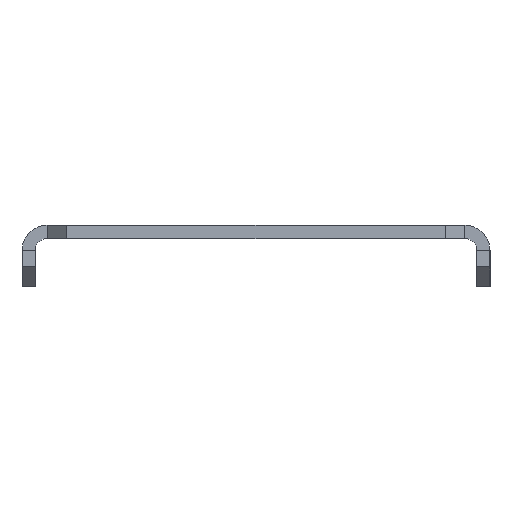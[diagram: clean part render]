
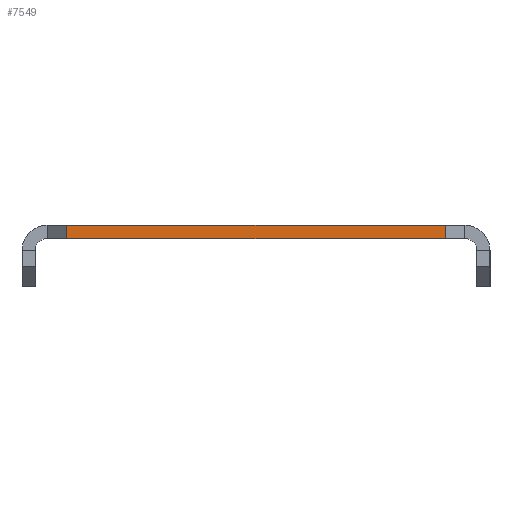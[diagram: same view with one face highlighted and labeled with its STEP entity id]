
A CAD part, left-side view. The second image highlights one B-rep face of the part: STEP entity #7549.
In plain terms, the highlighted planar face has unit normal (-1, 0, 0).
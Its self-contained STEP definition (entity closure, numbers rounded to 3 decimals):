
#298 = ORIENTED_EDGE ( 'NONE', *, *, #8040, .T. ) ;
#513 = CARTESIAN_POINT ( 'NONE',  ( -237.5, 28.655, 0. ) ) ;
#858 = CARTESIAN_POINT ( 'NONE',  ( -237.5, 31.655, 0. ) ) ;
#1117 = VERTEX_POINT ( 'NONE', #4583 ) ;
#1452 = LINE ( 'NONE', #1790, #3873 ) ;
#1639 = PLANE ( 'NONE',  #8723 ) ;
#1790 = CARTESIAN_POINT ( 'NONE',  ( -237.5, -28.655, 0. ) ) ;
#1964 = ORIENTED_EDGE ( 'NONE', *, *, #12154, .T. ) ;
#2476 = EDGE_LOOP ( 'NONE', ( #4118, #7672, #1964, #298 ) ) ;
#2696 = DIRECTION ( 'NONE',  ( 1., 0., 0. ) ) ;
#3174 = EDGE_CURVE ( 'NONE', #5708, #11546, #10256, .T. ) ;
#3773 = CARTESIAN_POINT ( 'NONE',  ( -237.5, 28.655, 0. ) ) ;
#3873 = VECTOR ( 'NONE', #10678, 1000. ) ;
#3921 = CARTESIAN_POINT ( 'NONE',  ( -237.5, 31.655, 0. ) ) ;
#4118 = ORIENTED_EDGE ( 'NONE', *, *, #3174, .F. ) ;
#4560 = LINE ( 'NONE', #13620, #9239 ) ;
#4583 = CARTESIAN_POINT ( 'NONE',  ( -237.5, 28.655, 2. ) ) ;
#5605 = LINE ( 'NONE', #513, #9566 ) ;
#5708 = VERTEX_POINT ( 'NONE', #9552 ) ;
#6134 = CARTESIAN_POINT ( 'NONE',  ( -237.5, -28.655, 2. ) ) ;
#6993 = EDGE_CURVE ( 'NONE', #5708, #10132, #1452, .T. ) ;
#7549 = ADVANCED_FACE ( 'NONE', ( #12721 ), #1639, .F. ) ;
#7672 = ORIENTED_EDGE ( 'NONE', *, *, #6993, .T. ) ;
#7830 = VECTOR ( 'NONE', #8491, 1000. ) ;
#7997 = DIRECTION ( 'NONE',  ( 0., 1., 0. ) ) ;
#8040 = EDGE_CURVE ( 'NONE', #1117, #11546, #5605, .T. ) ;
#8491 = DIRECTION ( 'NONE',  ( 0., 1., 0. ) ) ;
#8723 = AXIS2_PLACEMENT_3D ( 'NONE', #3921, #2696, #14021 ) ;
#9239 = VECTOR ( 'NONE', #7997, 1000. ) ;
#9552 = CARTESIAN_POINT ( 'NONE',  ( -237.5, -28.655, 0. ) ) ;
#9566 = VECTOR ( 'NONE', #11519, 1000. ) ;
#10132 = VERTEX_POINT ( 'NONE', #6134 ) ;
#10256 = LINE ( 'NONE', #858, #7830 ) ;
#10678 = DIRECTION ( 'NONE',  ( 0., 0., 1. ) ) ;
#11519 = DIRECTION ( 'NONE',  ( 0., 0., -1. ) ) ;
#11546 = VERTEX_POINT ( 'NONE', #3773 ) ;
#12154 = EDGE_CURVE ( 'NONE', #10132, #1117, #4560, .T. ) ;
#12721 = FACE_OUTER_BOUND ( 'NONE', #2476, .T. ) ;
#13620 = CARTESIAN_POINT ( 'NONE',  ( -237.5, 31.655, 2. ) ) ;
#14021 = DIRECTION ( 'NONE',  ( 0., 0., -1. ) ) ;
